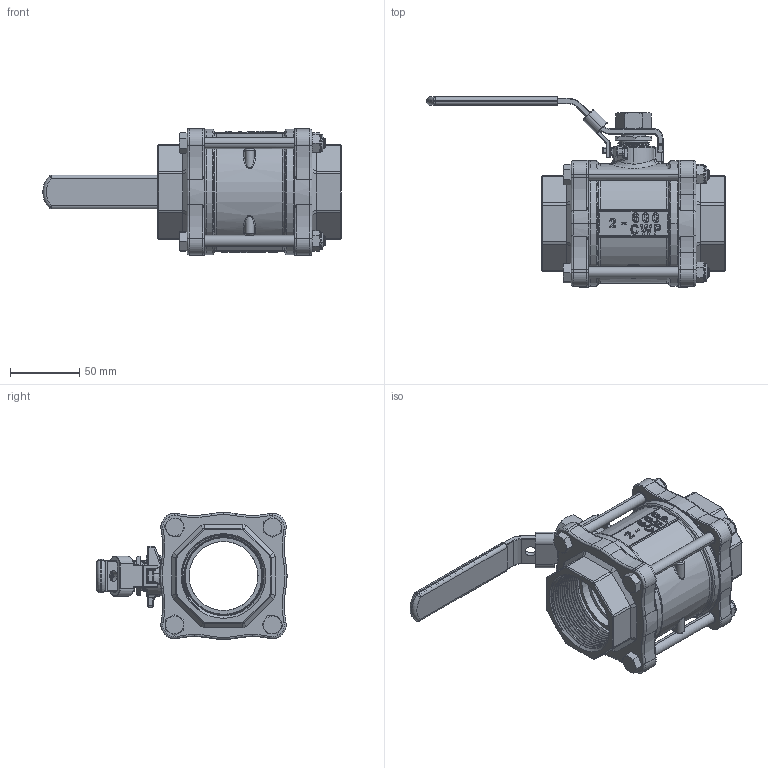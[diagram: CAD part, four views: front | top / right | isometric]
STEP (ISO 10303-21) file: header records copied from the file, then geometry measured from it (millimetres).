
FILE_DESCRIPTION (( 'STEP AP203' ), '1' );
FILE_NAME ('T-50.STEP', '2025-02-27T05:17:44', ( 'user' ), ( '' ), 'SwSTEP 2.0', 'SolidWorks 2012', '' );
FILE_SCHEMA (( 'CONFIG_CONTROL_DESIGN' ));
Products named in the file (17): 9-BODY SEAL; 8-GLAND PACKING; 7-O-RING; 6-THRUST WASHER; 5-SEAT; 4-STEM; 3-BALL; 1-BODY; T-50; 掛鎖; 15-HANDLE NUT; 14-HANDLE COVER; 13-HANDLE; 12-CAP BOLT; 11-CAP NUT; 2-CAP; 10-GLAND
Assembly tree (26 placements, depth 2):
  T-50
    1-BODY
    3-BALL
    4-STEM
    5-SEAT  x2
    6-THRUST WASHER
    7-O-RING  x2
    8-GLAND PACKING
    9-BODY SEAL  x2
    10-GLAND
    2-CAP  x2
    11-CAP NUT  x4
    12-CAP BOLT  x4
    13-HANDLE
    14-HANDLE COVER
    15-HANDLE NUT
    掛鎖
Bounding box: 216 x 137.7 x 92 mm (x, y, z)
Volume: 486051.9 mm3; surface area: 195837.4 mm2
Topology: 26 solids, 26 shells, 1733 faces, 4332 edges, 2632 vertices
Faces by surface type: cylinder 574, bspline 383, plane 350, cone 235, torus 137, sphere 54
Entity records: 92285 total; most frequent: CARTESIAN_POINT 64742, ORIENTED_EDGE 5836, DIRECTION 4712, EDGE_CURVE 2918, AXIS2_PLACEMENT_3D 1945, VERTEX_POINT 1777, EDGE_LOOP 1275, ADVANCED_FACE 1205
